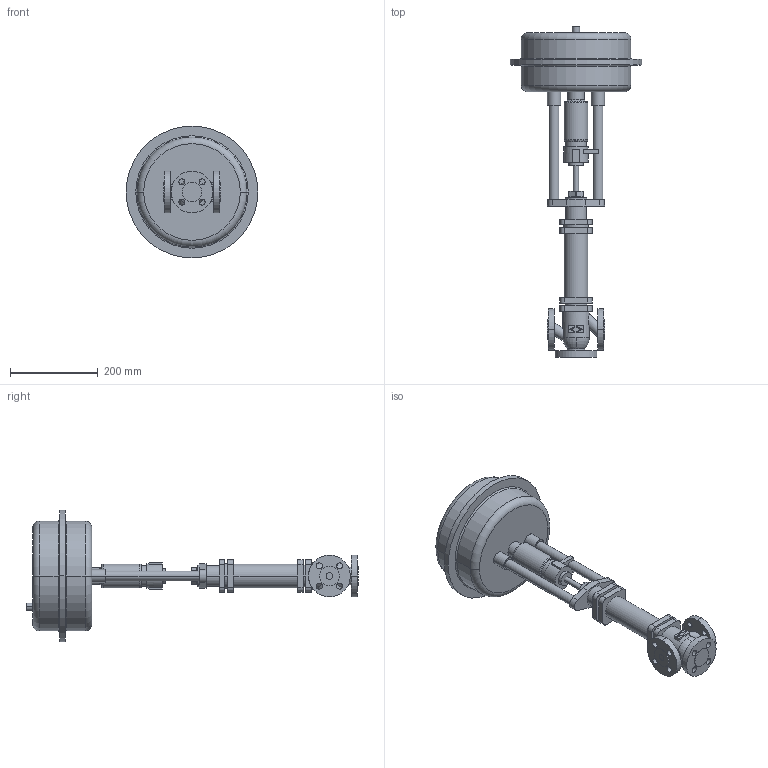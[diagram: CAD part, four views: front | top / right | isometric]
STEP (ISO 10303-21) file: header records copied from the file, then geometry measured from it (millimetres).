
FILE_DESCRIPTION(('OneSpaceDesigner STEP Export'),'2;1');
FILE_NAME('c000000752.stp','2006-09-21T 8:44:27',(''),(''),'OneSpace Designer STEP processor for AP214 (Solid Model)','OneSpace Designer 13.20A 18-Aug-2005 (C) CoCreate Software GmbH','');
FILE_SCHEMA(('AUTOMOTIVE_DESIGN { 1 0 10303 214 1 1 1 1 }'));
Length unit declared in the file: millimetre
Products named in the file (2): 1; 2
Bounding box: 300 x 755.6 x 300 mm (x, y, z)
Volume: 8724978.3 mm3; surface area: 472431.7 mm2
Topology: 2 solids, 2 shells, 241 faces, 595 edges, 392 vertices
Faces by surface type: cylinder 121, plane 98, torus 18, cone 4
Entity records: 6774 total; most frequent: CARTESIAN_POINT 1417, ORIENTED_EDGE 1190, DIRECTION 998, EDGE_CURVE 595, VERTEX_POINT 392, AXIS2_PLACEMENT_3D 358, EDGE_LOOP 299, VECTOR 282
